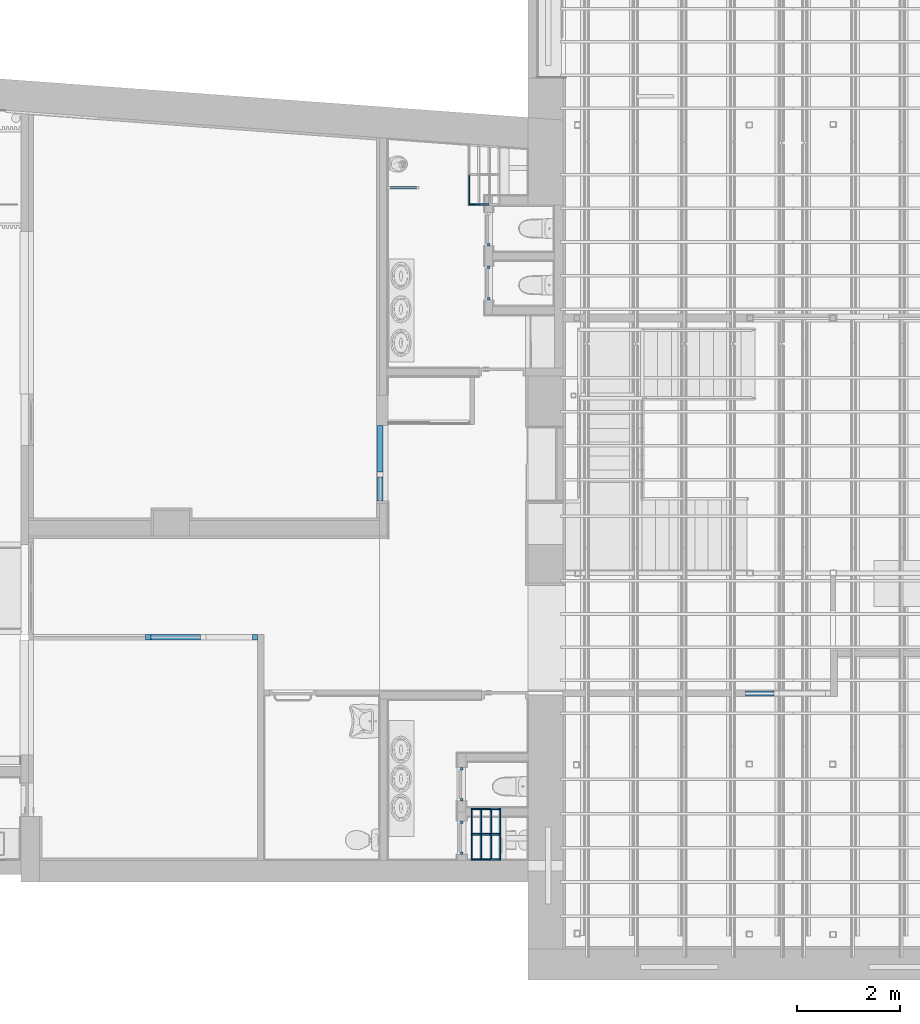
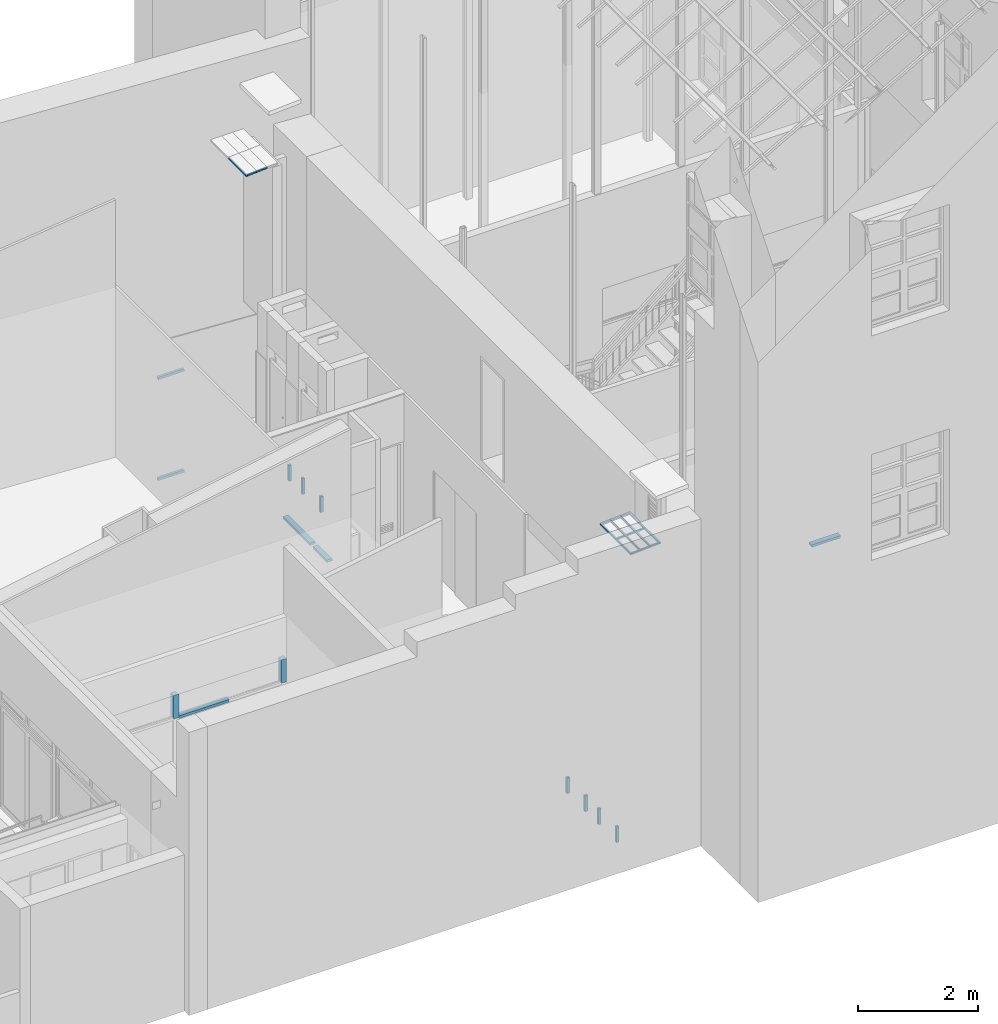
# One storey, part 28 of 75: 35 members, 10 elements without a shape of their own.
"""IFC2X3 building model written with IfcOpenShell, lengths in metres."""

from ifc_helpers import new_model, entity, si_unit, converted_unit, derived_unit, direction, frame, origin, origin_2d_with_axis, place, context, subcontext, project, spatial, rectangle, extrude, source, transform, mapped, material, type_object, type_shapes, element, aggregate, save


model = new_model("IFC2X3")

# Units and contexts
model_context = context("Model", 3, precision=1e-05, world=origin(), true_north=direction((6.12303176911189e-17, 1.0)))
body_context = subcontext(model_context, "Body", "Model", "MODEL_VIEW")
ifc_project = project(units=[si_unit("LENGTHUNIT", "METRE"), si_unit("AREAUNIT", "SQUARE_METRE"), si_unit("VOLUMEUNIT", "CUBIC_METRE"), converted_unit("PLANEANGLEUNIT", "DEGREE", entity("IfcRatioMeasure", 0.0174532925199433), si_unit("PLANEANGLEUNIT", "RADIAN"), dimensions=[0, 0, 0, 0, 0, 0, 0]), si_unit("MASSUNIT", "GRAM", prefix="KILO"), derived_unit("MASSDENSITYUNIT", [(si_unit("MASSUNIT", "GRAM", prefix="KILO"), 1), (si_unit("LENGTHUNIT", "METRE"), -3)]), derived_unit("MOMENTOFINERTIAUNIT", [(si_unit("LENGTHUNIT", "METRE"), 4)]), si_unit("TIMEUNIT", "SECOND"), si_unit("FREQUENCYUNIT", "HERTZ"), si_unit("THERMODYNAMICTEMPERATUREUNIT", "DEGREE_CELSIUS"), derived_unit("THERMALTRANSMITTANCEUNIT", [(si_unit("MASSUNIT", "GRAM", prefix="KILO"), 1), (si_unit("THERMODYNAMICTEMPERATUREUNIT", "KELVIN"), -1), (si_unit("TIMEUNIT", "SECOND"), -3)]), derived_unit("VOLUMETRICFLOWRATEUNIT", [(si_unit("LENGTHUNIT", "METRE"), 3), (si_unit("TIMEUNIT", "SECOND"), -1)]), si_unit("ELECTRICCURRENTUNIT", "AMPERE"), si_unit("ELECTRICVOLTAGEUNIT", "VOLT"), si_unit("POWERUNIT", "WATT"), si_unit("FORCEUNIT", "NEWTON", prefix="KILO"), si_unit("ILLUMINANCEUNIT", "LUX"), si_unit("LUMINOUSFLUXUNIT", "LUMEN"), si_unit("LUMINOUSINTENSITYUNIT", "CANDELA"), derived_unit("USERDEFINED", [(si_unit("MASSUNIT", "GRAM", prefix="KILO"), -1), (si_unit("LENGTHUNIT", "METRE"), -2), (si_unit("TIMEUNIT", "SECOND"), 3), (si_unit("LUMINOUSFLUXUNIT", "LUMEN"), 1)]), derived_unit("LINEARVELOCITYUNIT", [(si_unit("LENGTHUNIT", "METRE"), 1), (si_unit("TIMEUNIT", "SECOND"), -1)]), si_unit("PRESSUREUNIT", "PASCAL"), derived_unit("USERDEFINED", [(si_unit("LENGTHUNIT", "METRE"), -2), (si_unit("MASSUNIT", "GRAM", prefix="KILO"), 1), (si_unit("TIMEUNIT", "SECOND"), -2)]), derived_unit("LINEARFORCEUNIT", [(si_unit("MASSUNIT", "GRAM", prefix="KILO"), 1), (si_unit("LENGTHUNIT", "METRE"), 1), (si_unit("TIMEUNIT", "SECOND"), -2), (si_unit("LENGTHUNIT", "METRE"), -1)]), derived_unit("PLANARFORCEUNIT", [(si_unit("MASSUNIT", "GRAM", prefix="KILO"), 1), (si_unit("LENGTHUNIT", "METRE"), 1), (si_unit("TIMEUNIT", "SECOND"), -2), (si_unit("LENGTHUNIT", "METRE"), -2)])], contexts=[model_context])

# Site, building, storey
site_placement = place(None, origin())
site = spatial("IfcSite", under=ifc_project, at=site_placement, Name="Superficie", CompositionType="ELEMENT")
building_placement = place(site_placement, origin())
building = spatial("IfcBuilding", under=site, at=building_placement, Name="Telegestiones", CompositionType="ELEMENT")
storey_placement = place(building_placement, origin())
storey = spatial("IfcBuildingStorey", under=building, at=storey_placement, Name="Nivel 0_NPT", CompositionType="ELEMENT", Elevation=0.0)

# Curtain wall, members
curtain_wall_type_1 = type_object("IfcCurtainWallType", PredefinedType="NOTDEFINED")
curtain_wall_1_placement = place(storey_placement, origin())
curtain_wall_1 = element("IfcCurtainWall", 1, at=curtain_wall_1_placement, inside=storey, type_object=curtain_wall_type_1)
ifc_material = material(Name="Aluminio")
member_type_1 = type_object("IfcMemberType", Name="Montante rectangular:10x10", PredefinedType="MULLION", material=ifc_material)
shared_shape_1 = source(origin(), body_context, "Body", "SweptSolid", [
    extrude(rectangle(XDim=0.1, YDim=0.1, at=origin_2d_with_axis()), frame((-0.05, 0.0, -0.475), z_axis=(0.0, 0.0, 1.0), x_axis=(0.0, -1.0, 0.0)), (0.0, 0.0, 1.0), 0.475),
])
type_shapes(member_type_1, [shared_shape_1])
member_1_placement = place(curtain_wall_1_placement, frame((0.106652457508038, 0.24406301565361, 2.125), z_axis=(0.0, 0.0, -1.0), x_axis=(1.0, 0.0, 0.0)))
member_1 = element("IfcMember", 2, at=member_1_placement, type_object=member_type_1, Name="Montante rectangular:10x10", ObjectType="Montante rectangular:10x10", context=body_context, shape_type="MappedRepresentation", body=[
    mapped(shared_shape_1, transform((0.0, 0.0, 0.0), scale=1.0)),
])
member_type_2 = type_object("IfcMemberType", Name="Montante rectangular:5x10", PredefinedType="MULLION", material=ifc_material)
shared_shape_2 = source(origin(), body_context, "Body", "SweptSolid", [
    extrude(rectangle(XDim=0.1, YDim=0.05, at=origin_2d_with_axis()), frame((0.0, 0.0, -0.965917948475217), z_axis=(0.0, 0.0, 1.0), x_axis=(0.0, -1.0, 0.0)), (0.0, 0.0, 1.0), 0.965917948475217),
])
type_shapes(member_type_2, [shared_shape_2])
member_2_placement = place(curtain_wall_1_placement, frame((-0.998349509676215, 0.244063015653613, 2.125), z_axis=(1.0, 0.0, 0.0), x_axis=(0.0, 0.0, 1.0)))
member_2 = element("IfcMember", 3, at=member_2_placement, type_object=member_type_2, Name="Montante rectangular:5x10", ObjectType="Montante rectangular:5x10", context=body_context, shape_type="MappedRepresentation", body=[
    mapped(shared_shape_2, transform((0.0, 0.0, 0.0), scale=1.0)),
])
member_type_3 = type_object("IfcMemberType", Name="Montante rectangular:10x10", PredefinedType="MULLION", material=ifc_material)
shared_shape_3 = source(origin(), body_context, "Body", "SweptSolid", [
    extrude(rectangle(XDim=0.1, YDim=0.1, at=origin_2d_with_axis()), frame((0.05, 0.0, -0.475), z_axis=(0.0, 0.0, 1.0), x_axis=(0.0, -1.0, 0.0)), (0.0, 0.0, 1.0), 0.475),
])
type_shapes(member_type_3, [shared_shape_3])
member_3_placement = place(curtain_wall_1_placement, frame((-2.06426745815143, 0.244063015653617, 2.125), z_axis=(0.0, 0.0, -1.0), x_axis=(1.0, 0.0, 0.0)))
member_3 = element("IfcMember", 4, at=member_3_placement, type_object=member_type_3, Name="Montante rectangular:10x10", ObjectType="Montante rectangular:10x10", context=body_context, shape_type="MappedRepresentation", body=[
    mapped(shared_shape_3, transform((0.0, 0.0, 0.0), scale=1.0)),
])
aggregate(curtain_wall_1, [member_1, member_2, member_3])

curtain_wall_type_2 = type_object("IfcCurtainWallType", PredefinedType="NOTDEFINED")
curtain_wall_2_placement = place(storey_placement, origin())
curtain_wall_2 = element("IfcCurtainWall", 5, at=curtain_wall_2_placement, inside=storey, type_object=curtain_wall_type_2)
member_type_4 = type_object("IfcMemberType", Name="Montante rectangular:5x10", PredefinedType="MULLION", material=ifc_material)
shared_shape_4 = source(origin(), body_context, "Body", "SweptSolid", [
    extrude(rectangle(XDim=0.1, YDim=0.05, at=origin_2d_with_axis()), frame((0.0, 0.0, -0.466767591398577), z_axis=(0.0, 0.0, 1.0), x_axis=(0.0, -1.0, 0.0)), (0.0, 0.0, 1.0), 0.466767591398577),
])
type_shapes(member_type_4, [shared_shape_4])
member_4_placement = place(curtain_wall_2_placement, frame((2.48532576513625, 3.34860365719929, 2.125), z_axis=(0.0, 1.0, 0.0), x_axis=(0.0, 0.0, 1.0)))
member_4 = element("IfcMember", 6, at=member_4_placement, type_object=member_type_4, Name="Montante rectangular:5x10", ObjectType="Montante rectangular:5x10", context=body_context, shape_type="MappedRepresentation", body=[
    mapped(shared_shape_4, transform((0.0, 0.0, 0.0), scale=1.0)),
])
member_type_5 = type_object("IfcMemberType", Name="Montante rectangular:5x10", PredefinedType="MULLION", material=ifc_material)
shared_shape_5 = source(origin(), body_context, "Body", "SweptSolid", [
    extrude(rectangle(XDim=0.1, YDim=0.05, at=origin_2d_with_axis()), frame((0.0, 0.0, -0.9), z_axis=(0.0, 0.0, 1.0), x_axis=(0.0, -1.0, 0.0)), (0.0, 0.0, 1.0), 0.9),
])
type_shapes(member_type_5, [shared_shape_5])
member_5_placement = place(curtain_wall_2_placement, frame((2.48532576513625, 4.34860365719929, 2.125), z_axis=(0.0, 1.0, 0.0), x_axis=(0.0, 0.0, 1.0)))
member_5 = element("IfcMember", 7, at=member_5_placement, type_object=member_type_5, Name="Montante rectangular:5x10", ObjectType="Montante rectangular:5x10", context=body_context, shape_type="MappedRepresentation", body=[
    mapped(shared_shape_5, transform((0.0, 0.0, 0.0), scale=1.0)),
])
aggregate(curtain_wall_2, [member_4, member_5])

# Curtain wall, member
curtain_wall_type_3 = type_object("IfcCurtainWallType", PredefinedType="NOTDEFINED")
curtain_wall_3_placement = place(storey_placement, origin())
curtain_wall_3 = element("IfcCurtainWall", 8, at=curtain_wall_3_placement, inside=storey, type_object=curtain_wall_type_3)
member_type_6 = type_object("IfcMemberType", Name="Montante rectangular:5x10", PredefinedType="MULLION", material=ifc_material)
shared_shape_6 = source(origin(), body_context, "Body", "SweptSolid", [
    extrude(rectangle(XDim=0.1, YDim=0.05, at=origin_2d_with_axis()), frame((0.0, 0.0, -0.55), z_axis=(0.0, 0.0, 1.0), x_axis=(0.0, -1.0, 0.0)), (0.0, 0.0, 1.0), 0.549999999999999),
])
type_shapes(member_type_6, [shared_shape_6])
member_6_placement = place(curtain_wall_3_placement, frame((9.5738493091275, -0.846462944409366, 2.225), z_axis=(-1.0, 0.0, 0.0), x_axis=(0.0, 0.0, 1.0)))
member_6 = element("IfcMember", 9, at=member_6_placement, type_object=member_type_6, Name="Montante rectangular:5x10", ObjectType="Montante rectangular:5x10", context=body_context, shape_type="MappedRepresentation", body=[
    mapped(shared_shape_6, transform((0.0, 0.0, 0.0), scale=1.0)),
])
aggregate(curtain_wall_3, [member_6])

# Roof, members
curtain_wall_type_4 = type_object("IfcCurtainWallType", Name="Cristalera inclinada:ARQ-CA-EX-Lucernario", PredefinedType="NOTDEFINED")
roof_1_placement = place(storey_placement, origin())
roof_1 = element("IfcRoof", 10, at=roof_1_placement, inside=storey, type_object=curtain_wall_type_4, Name="Cristalera inclinada:ARQ-CA-EX-Lucernario", ObjectType="Cristalera inclinada:ARQ-CA-EX-Lucernario", ShapeType="NOTDEFINED")
member_type_7 = type_object("IfcMemberType", Name="Montante rectangular:3x3", PredefinedType="MULLION", material=ifc_material)
shared_shape_7 = source(origin(), body_context, "Body", "SweptSolid", [
    extrude(rectangle(XDim=0.03, YDim=0.03, at=origin_2d_with_axis()), frame((-0.015, 0.0, -0.592242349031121), z_axis=(0.0, 0.0, 1.0), x_axis=(0.0, -1.0, 0.0)), (0.0, 0.0, 1.0), 0.592242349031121),
])
type_shapes(member_type_7, [shared_shape_7])
member_7_placement = place(roof_1_placement, frame((4.19481262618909, 8.62360722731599, 5.85343137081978), z_axis=(0.0, -1.0, 0.0), x_axis=(-0.998204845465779, 0.0, -0.0598922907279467)))
member_7 = element("IfcMember", 11, at=member_7_placement, type_object=member_type_7, Name="Montante rectangular:3x3", ObjectType="Montante rectangular:3x3", context=body_context, shape_type="MappedRepresentation", body=[
    mapped(shared_shape_7, transform((0.0, 0.0, 0.0), scale=1.0)),
])
member_type_8 = type_object("IfcMemberType", Name="Montante rectangular:3x3", PredefinedType="MULLION", material=ifc_material)
shared_shape_8 = source(origin(), body_context, "Body", "SweptSolid", [
    extrude(rectangle(XDim=0.03, YDim=0.03, at=origin_2d_with_axis()), frame((-0.015, 0.0, -0.203524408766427), z_axis=(0.0, 0.0, 1.0), x_axis=(0.0, -1.0, 0.0)), (0.0, 0.0, 1.0), 0.203524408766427),
])
type_shapes(member_type_8, [shared_shape_8])
member_8_placement = place(roof_1_placement, frame((4.6011307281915, 8.62360722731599, 5.87781045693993), z_axis=(0.998204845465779, 0.0, 0.0598922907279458), x_axis=(0.0, -1.0, 0.0)))
member_8 = element("IfcMember", 12, at=member_8_placement, type_object=member_type_8, Name="Montante rectangular:3x3", ObjectType="Montante rectangular:3x3", context=body_context, shape_type="MappedRepresentation", body=[
    mapped(shared_shape_8, transform((0.0, 0.0, 0.0), scale=1.0)),
])
member_type_9 = type_object("IfcMemberType", Name="Montante rectangular:3x3", PredefinedType="MULLION", material=ifc_material)
shared_shape_9 = source(origin(), body_context, "Body", "SweptSolid", [
    extrude(rectangle(XDim=0.03, YDim=0.03, at=origin_2d_with_axis()), frame((-0.015, 0.0, -0.173524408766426), z_axis=(0.0, 0.0, 1.0), x_axis=(0.0, -1.0, 0.0)), (0.0, 0.0, 1.0), 0.173524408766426),
])
type_shapes(member_type_9, [shared_shape_9])
member_9_placement = place(roof_1_placement, frame((4.3979716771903, 8.62360722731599, 5.86562091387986), z_axis=(0.998204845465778, 0.0, 0.0598922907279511), x_axis=(0.0, -1.0, 0.0)))
member_9 = element("IfcMember", 13, at=member_9_placement, type_object=member_type_9, Name="Montante rectangular:3x3", ObjectType="Montante rectangular:3x3", context=body_context, shape_type="MappedRepresentation", body=[
    mapped(shared_shape_9, transform((0.0, 0.0, 0.0), scale=1.0)),
])
aggregate(roof_1, [member_7, member_8, member_9])

# Curtain wall, member
curtain_wall_type_5 = type_object("IfcCurtainWallType", PredefinedType="NOTDEFINED")
curtain_wall_4_placement = place(storey_placement, origin())
curtain_wall_4 = element("IfcCurtainWall", 14, at=curtain_wall_4_placement, inside=storey, type_object=curtain_wall_type_5)
member_type_10 = type_object("IfcMemberType", Name="Montante rectangular:5x5", PredefinedType="MULLION", material=ifc_material)
shared_shape_10 = source(origin(), body_context, "Body", "SweptSolid", [
    extrude(rectangle(XDim=0.05, YDim=0.05, at=origin_2d_with_axis()), frame((-0.025, 0.0, -0.32), z_axis=(0.0, 0.0, 1.0), x_axis=(0.0, -1.0, 0.0)), (0.0, 0.0, 1.0), 0.32),
])
type_shapes(member_type_10, [shared_shape_10])
member_10_placement = place(curtain_wall_4_placement, frame((4.06481262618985, -2.28139277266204, 0.0), z_axis=(0.0, 0.0, -1.0), x_axis=(0.0, 1.0, 0.0)))
member_10 = element("IfcMember", 15, at=member_10_placement, type_object=member_type_10, Name="Montante rectangular:5x5", ObjectType="Montante rectangular:5x5", context=body_context, shape_type="MappedRepresentation", body=[
    mapped(shared_shape_10, transform((0.0, 0.0, 0.0), scale=1.0)),
])

curtain_wall_5_placement = place(storey_placement, origin())
curtain_wall_5 = element("IfcCurtainWall", 16, at=curtain_wall_5_placement, inside=storey, type_object=curtain_wall_type_5)
member_11_placement = place(curtain_wall_5_placement, frame((4.06481262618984, -3.32139277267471, 0.0), z_axis=(0.0, 0.0, -1.0), x_axis=(0.0, 1.0, 0.0)))
member_11 = element("IfcMember", 17, at=member_11_placement, type_object=member_type_10, Name="Montante rectangular:5x5", ObjectType="Montante rectangular:5x5", context=body_context, shape_type="MappedRepresentation", body=[
    mapped(shared_shape_10, transform((0.0, 0.0, 0.0), scale=1.0)),
])

curtain_wall_6_placement = place(storey_placement, origin())
curtain_wall_6 = element("IfcCurtainWall", 18, at=curtain_wall_6_placement, inside=storey, type_object=curtain_wall_type_5)
member_12_placement = place(curtain_wall_6_placement, frame((4.58995224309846, 7.44324357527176, 0.0), z_axis=(0.0, 0.0, -1.0), x_axis=(0.0, 1.0, 0.0)))
member_12 = element("IfcMember", 19, at=member_12_placement, type_object=member_type_10, Name="Montante rectangular:5x5", ObjectType="Montante rectangular:5x5", context=body_context, shape_type="MappedRepresentation", body=[
    mapped(shared_shape_10, transform((0.0, 0.0, 0.0), scale=1.0)),
])

# Member
member_type_11 = type_object("IfcMemberType", Name="Montante rectangular:5x5", PredefinedType="MULLION", material=ifc_material)
shared_shape_11 = source(origin(), body_context, "Body", "SweptSolid", [
    extrude(rectangle(XDim=0.05, YDim=0.05, at=origin_2d_with_axis()), frame((-0.025, 0.0, -0.32), z_axis=(0.0, 0.0, 1.0), x_axis=(0.0, -1.0, 0.0)), (0.0, 0.0, 1.0), 0.32),
])
type_shapes(member_type_11, [shared_shape_11])
member_13_placement = place(curtain_wall_4_placement, frame((4.06481262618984, -2.93139277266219, 0.32), z_axis=(0.0, 0.0, 1.0), x_axis=(0.0, -1.0, 0.0)))
member_13 = element("IfcMember", 20, at=member_13_placement, type_object=member_type_11, Name="Montante rectangular:5x5", ObjectType="Montante rectangular:5x5", context=body_context, shape_type="MappedRepresentation", body=[
    mapped(shared_shape_11, transform((0.0, 0.0, 0.0), scale=1.0)),
])

aggregate(curtain_wall_4, [member_10, member_13])

member_14_placement = place(curtain_wall_5_placement, frame((4.06481262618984, -3.97136539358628, 0.32), z_axis=(0.0, 0.0, 1.0), x_axis=(0.0, -1.0, 0.0)))
member_14 = element("IfcMember", 21, at=member_14_placement, type_object=member_type_11, Name="Montante rectangular:5x5", ObjectType="Montante rectangular:5x5", context=body_context, shape_type="MappedRepresentation", body=[
    mapped(shared_shape_11, transform((0.0, 0.0, 0.0), scale=1.0)),
])

aggregate(curtain_wall_5, [member_11, member_14])

member_15_placement = place(curtain_wall_6_placement, frame((4.58995224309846, 6.78360722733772, 0.32), z_axis=(0.0, 0.0, 1.0), x_axis=(0.0, -1.0, 0.0)))
member_15 = element("IfcMember", 22, at=member_15_placement, type_object=member_type_11, Name="Montante rectangular:5x5", ObjectType="Montante rectangular:5x5", context=body_context, shape_type="MappedRepresentation", body=[
    mapped(shared_shape_11, transform((0.0, 0.0, 0.0), scale=1.0)),
])

aggregate(curtain_wall_6, [member_12, member_15])

# Curtain wall, member
curtain_wall_7_placement = place(storey_placement, origin())
curtain_wall_7 = element("IfcCurtainWall", 23, at=curtain_wall_7_placement, inside=storey, type_object=curtain_wall_type_5)
member_16_placement = place(curtain_wall_7_placement, frame((4.58981262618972, 7.83360722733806, 0.32), z_axis=(0.0, 0.0, 1.0), x_axis=(0.0, -1.0, 0.0)))
member_16 = element("IfcMember", 24, at=member_16_placement, type_object=member_type_11, Name="Montante rectangular:5x5", ObjectType="Montante rectangular:5x5", context=body_context, shape_type="MappedRepresentation", body=[
    mapped(shared_shape_11, transform((0.0, 0.0, 0.0), scale=1.0)),
])
aggregate(curtain_wall_7, [member_16])

# Curtain wall, members
curtain_wall_8_placement = place(storey_placement, origin())
curtain_wall_8 = element("IfcCurtainWall", 25, at=curtain_wall_8_placement, inside=storey, type_object=curtain_wall_type_5)
member_type_12 = type_object("IfcMemberType", Name="Montante rectangular:5x5", PredefinedType="MULLION", material=ifc_material)
shared_shape_12 = source(origin(), body_context, "Body", "SweptSolid", [
    extrude(rectangle(XDim=0.05, YDim=0.05, at=origin_2d_with_axis()), frame((-0.025, 0.0, -0.499999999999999), z_axis=(0.0, 0.0, 1.0), x_axis=(0.0, -1.0, 0.0)), (0.0, 0.0, 1.0), 0.499999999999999),
])
type_shapes(member_type_12, [shared_shape_12])
member_17_placement = place(curtain_wall_8_placement, frame((3.18740672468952, 8.96204870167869, 2.1), z_axis=(1.0, 0.0, 0.0), x_axis=(0.0, 0.0, 1.0)))
member_17 = element("IfcMember", 26, at=member_17_placement, type_object=member_type_12, Name="Montante rectangular:5x5", ObjectType="Montante rectangular:5x5", context=body_context, shape_type="MappedRepresentation", body=[
    mapped(shared_shape_12, transform((0.0, 0.0, 0.0), scale=1.0)),
])
member_type_13 = type_object("IfcMemberType", Name="Montante rectangular:5x5", PredefinedType="MULLION", material=ifc_material)
shared_shape_13 = source(origin(), body_context, "Body", "SweptSolid", [
    extrude(rectangle(XDim=0.05, YDim=0.05, at=origin_2d_with_axis()), frame((-0.025, 0.0, -0.5), z_axis=(0.0, 0.0, 1.0), x_axis=(0.0, -1.0, 0.0)), (0.0, 0.0, 1.0), 0.5),
])
type_shapes(member_type_13, [shared_shape_13])
member_18_placement = place(curtain_wall_8_placement, frame((2.68740672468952, 8.96204870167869, 0.0), z_axis=(-1.0, 0.0, 0.0), x_axis=(0.0, 0.0, -1.0)))
member_18 = element("IfcMember", 27, at=member_18_placement, type_object=member_type_13, Name="Montante rectangular:5x5", ObjectType="Montante rectangular:5x5", context=body_context, shape_type="MappedRepresentation", body=[
    mapped(shared_shape_13, transform((0.0, 0.0, 0.0), scale=1.0)),
])
aggregate(curtain_wall_8, [member_17, member_18])

# Roof, members
roof_2_placement = place(storey_placement, origin())
roof_2 = element("IfcRoof", 28, at=roof_2_placement, inside=storey, type_object=curtain_wall_type_4, Name="Cristalera inclinada:ARQ-CA-EX-Lucernario", ObjectType="Cristalera inclinada:ARQ-CA-EX-Lucernario", ShapeType="NOTDEFINED")
member_type_14 = type_object("IfcMemberType", Name="Montante rectangular:3x3", PredefinedType="MULLION", material=ifc_material)
shared_shape_14 = source(origin(), body_context, "Body", "SweptSolid", [
    extrude(rectangle(XDim=0.03, YDim=0.03, at=origin_2d_with_axis()), frame((-0.015, 0.0, -0.507049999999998), z_axis=(0.0, 0.0, 1.0), x_axis=(0.0, -1.0, 0.0)), (0.0, 0.0, 1.0), 0.507049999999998),
])
type_shapes(member_type_14, [shared_shape_14])
member_19_placement = place(roof_2_placement, frame((4.82428977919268, -3.072292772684, 5.89), z_axis=(0.0, 1.0, 0.0), x_axis=(0.998204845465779, 0.0, 0.0598922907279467)))
member_19 = element("IfcMember", 29, at=member_19_placement, type_object=member_type_14, Name="Montante rectangular:3x3", ObjectType="Montante rectangular:3x3", context=body_context, shape_type="MappedRepresentation", body=[
    mapped(shared_shape_14, transform((0.0, 0.0, 0.0), scale=1.0)),
])
member_type_15 = type_object("IfcMemberType", Name="Montante rectangular:3x3", PredefinedType="MULLION", material=ifc_material)
shared_shape_15 = source(origin(), body_context, "Body", "SweptSolid", [
    extrude(rectangle(XDim=0.03, YDim=0.03, at=origin_2d_with_axis()), frame((-0.015, 0.0, -0.50705), z_axis=(0.0, 0.0, 1.0), x_axis=(0.0, -1.0, 0.0)), (0.0, 0.0, 1.0), 0.50705),
])
type_shapes(member_type_15, [shared_shape_15])
member_20_placement = place(roof_2_placement, frame((4.24481262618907, -4.086392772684, 5.85523137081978), z_axis=(0.0, -1.0, 0.0), x_axis=(-0.998204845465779, 0.0, -0.0598922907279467)))
member_20 = element("IfcMember", 30, at=member_20_placement, type_object=member_type_15, Name="Montante rectangular:3x3", ObjectType="Montante rectangular:3x3", context=body_context, shape_type="MappedRepresentation", body=[
    mapped(shared_shape_15, transform((0.0, 0.0, 0.0), scale=1.0)),
])
member_type_16 = type_object("IfcMemberType", Name="Montante rectangular:3x3", PredefinedType="MULLION", material=ifc_material)
shared_shape_16 = source(origin(), body_context, "Body", "SweptSolid", [
    extrude(rectangle(XDim=0.03, YDim=0.03, at=origin_2d_with_axis()), frame((-0.015, 0.0, -0.163506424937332), z_axis=(0.0, 0.0, 1.0), x_axis=(0.0, -1.0, 0.0)), (0.0, 0.0, 1.0), 0.163506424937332),
])
type_shapes(member_type_16, [shared_shape_16])
member_21_placement = place(roof_2_placement, frame((4.79434363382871, -4.086392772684, 5.88820323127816), z_axis=(0.998204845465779, 0.0, 0.0598922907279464), x_axis=(0.0, -1.0, 0.0)))
member_21 = element("IfcMember", 31, at=member_21_placement, type_object=member_type_16, Name="Montante rectangular:3x3", ObjectType="Montante rectangular:3x3", context=body_context, shape_type="MappedRepresentation", body=[
    mapped(shared_shape_16, transform((0.0, 0.0, 0.0), scale=1.0)),
])
member_type_17 = type_object("IfcMemberType", Name="Montante rectangular:3x3", PredefinedType="MULLION", material=ifc_material)
shared_shape_17 = source(origin(), body_context, "Body", "SweptSolid", [
    extrude(rectangle(XDim=0.03, YDim=0.03, at=origin_2d_with_axis()), frame((-0.015, 0.0, -0.163506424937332), z_axis=(0.0, 0.0, 1.0), x_axis=(0.0, -1.0, 0.0)), (0.0, 0.0, 1.0), 0.163506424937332),
])
type_shapes(member_type_17, [shared_shape_17])
member_22_placement = place(roof_2_placement, frame((4.27475877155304, -3.072292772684, 5.85702813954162), z_axis=(-0.998204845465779, 0.0, -0.0598922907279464), x_axis=(0.0, 1.0, 0.0)))
member_22 = element("IfcMember", 32, at=member_22_placement, type_object=member_type_17, Name="Montante rectangular:3x3", ObjectType="Montante rectangular:3x3", context=body_context, shape_type="MappedRepresentation", body=[
    mapped(shared_shape_17, transform((0.0, 0.0, 0.0), scale=1.0)),
])
member_type_18 = type_object("IfcMemberType", Name="Montante rectangular:3x3", PredefinedType="MULLION", material=ifc_material)
shared_shape_18 = source(origin(), body_context, "Body", "SweptSolid", [
    extrude(rectangle(XDim=0.03, YDim=0.03, at=origin_2d_with_axis()), frame((-0.015, 0.0, -0.193506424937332), z_axis=(0.0, 0.0, 1.0), x_axis=(0.0, -1.0, 0.0)), (0.0, 0.0, 1.0), 0.193506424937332),
])
type_shapes(member_type_18, [shared_shape_18])
member_23_placement = place(roof_2_placement, frame((4.63113072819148, -4.086392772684, 5.87841045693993), z_axis=(0.998204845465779, 0.0, 0.0598922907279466), x_axis=(0.0, -1.0, 0.0)))
member_23 = element("IfcMember", 33, at=member_23_placement, type_object=member_type_18, Name="Montante rectangular:3x3", ObjectType="Montante rectangular:3x3", context=body_context, shape_type="MappedRepresentation", body=[
    mapped(shared_shape_18, transform((0.0, 0.0, 0.0), scale=1.0)),
])
member_type_19 = type_object("IfcMemberType", Name="Montante rectangular:3x3", PredefinedType="MULLION", material=ifc_material)
shared_shape_19 = source(origin(), body_context, "Body", "SweptSolid", [
    extrude(rectangle(XDim=0.03, YDim=0.03, at=origin_2d_with_axis()), frame((-0.015, 0.0, -0.193506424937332), z_axis=(0.0, 0.0, 1.0), x_axis=(0.0, -1.0, 0.0)), (0.0, 0.0, 1.0), 0.193506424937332),
])
type_shapes(member_type_19, [shared_shape_19])
member_24_placement = place(roof_2_placement, frame((4.43797167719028, -3.072292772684, 5.86682091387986), z_axis=(-0.998204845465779, 0.0, -0.0598922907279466), x_axis=(0.0, 1.0, 0.0)))
member_24 = element("IfcMember", 34, at=member_24_placement, type_object=member_type_19, Name="Montante rectangular:3x3", ObjectType="Montante rectangular:3x3", context=body_context, shape_type="MappedRepresentation", body=[
    mapped(shared_shape_19, transform((0.0, 0.0, 0.0), scale=1.0)),
])
member_type_20 = type_object("IfcMemberType", Name="Montante rectangular:3x3", PredefinedType="MULLION", material=ifc_material)
shared_shape_20 = source(origin(), body_context, "Body", "SweptSolid", [
    extrude(rectangle(XDim=0.03, YDim=0.03, at=origin_2d_with_axis()), frame((-0.015, 0.0, -0.163506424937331), z_axis=(0.0, 0.0, 1.0), x_axis=(0.0, -1.0, 0.0)), (0.0, 0.0, 1.0), 0.163506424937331),
])
type_shapes(member_type_20, [shared_shape_20])
member_25_placement = place(roof_2_placement, frame((4.43797167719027, -4.086392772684, 5.86682091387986), z_axis=(0.998204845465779, 0.0, 0.0598922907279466), x_axis=(0.0, -1.0, 0.0)))
member_25 = element("IfcMember", 35, at=member_25_placement, type_object=member_type_20, Name="Montante rectangular:3x3", ObjectType="Montante rectangular:3x3", context=body_context, shape_type="MappedRepresentation", body=[
    mapped(shared_shape_20, transform((0.0, 0.0, 0.0), scale=1.0)),
])
member_type_21 = type_object("IfcMemberType", Name="Montante rectangular:3x3", PredefinedType="MULLION", material=ifc_material)
shared_shape_21 = source(origin(), body_context, "Body", "SweptSolid", [
    extrude(rectangle(XDim=0.03, YDim=0.03, at=origin_2d_with_axis()), frame((0.0, 0.0, -0.477049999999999), z_axis=(0.0, 0.0, 1.0), x_axis=(0.0, -1.0, 0.0)), (0.0, 0.0, 1.0), 0.477049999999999),
])
type_shapes(member_type_21, [shared_shape_21])
member_26_placement = place(roof_2_placement, frame((4.63113072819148, -4.056392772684, 5.87841045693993), z_axis=(0.0, -1.0, 0.0), x_axis=(-0.998204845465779, 0.0, -0.0598922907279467)))
member_26 = element("IfcMember", 36, at=member_26_placement, type_object=member_type_21, Name="Montante rectangular:3x3", ObjectType="Montante rectangular:3x3", context=body_context, shape_type="MappedRepresentation", body=[
    mapped(shared_shape_21, transform((0.0, 0.0, 0.0), scale=1.0)),
])
member_27_placement = place(roof_2_placement, frame((4.43797167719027, -4.056392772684, 5.86682091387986), z_axis=(0.0, -1.0, 0.0), x_axis=(-0.998204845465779, 0.0, -0.0598922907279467)))
member_27 = element("IfcMember", 37, at=member_27_placement, type_object=member_type_21, Name="Montante rectangular:3x3", ObjectType="Montante rectangular:3x3", context=body_context, shape_type="MappedRepresentation", body=[
    mapped(shared_shape_21, transform((0.0, 0.0, 0.0), scale=1.0)),
])
member_type_22 = type_object("IfcMemberType", Name="Montante rectangular:3x3", PredefinedType="MULLION", material=ifc_material)
shared_shape_22 = source(origin(), body_context, "Body", "SweptSolid", [
    extrude(rectangle(XDim=0.03, YDim=0.03, at=origin_2d_with_axis()), frame((-0.015, 0.0, -0.163506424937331), z_axis=(0.0, 0.0, 1.0), x_axis=(0.0, -1.0, 0.0)), (0.0, 0.0, 1.0), 0.163506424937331),
])
type_shapes(member_type_22, [shared_shape_22])
member_28_placement = place(roof_2_placement, frame((4.63113072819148, -3.072292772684, 5.87841045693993), z_axis=(-0.998204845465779, 0.0, -0.0598922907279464), x_axis=(0.0, 1.0, 0.0)))
member_28 = element("IfcMember", 38, at=member_28_placement, type_object=member_type_22, Name="Montante rectangular:3x3", ObjectType="Montante rectangular:3x3", context=body_context, shape_type="MappedRepresentation", body=[
    mapped(shared_shape_22, transform((0.0, 0.0, 0.0), scale=1.0)),
])
member_type_23 = type_object("IfcMemberType", Name="Montante rectangular:3x3", PredefinedType="MULLION", material=ifc_material)
shared_shape_23 = source(origin(), body_context, "Body", "SweptSolid", [
    extrude(rectangle(XDim=0.03, YDim=0.03, at=origin_2d_with_axis()), frame((-0.015, 0.0, -0.50705), z_axis=(0.0, 0.0, 1.0), x_axis=(0.0, -1.0, 0.0)), (0.0, 0.0, 1.0), 0.50705),
])
type_shapes(member_type_23, [shared_shape_23])
member_29_placement = place(roof_2_placement, frame((4.24481262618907, -3.579342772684, 5.85523137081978), z_axis=(0.0, -1.0, 0.0), x_axis=(-0.998204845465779, 0.0, -0.0598922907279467)))
member_29 = element("IfcMember", 39, at=member_29_placement, type_object=member_type_23, Name="Montante rectangular:3x3", ObjectType="Montante rectangular:3x3", context=body_context, shape_type="MappedRepresentation", body=[
    mapped(shared_shape_23, transform((0.0, 0.0, 0.0), scale=1.0)),
])
member_type_24 = type_object("IfcMemberType", Name="Montante rectangular:3x3", PredefinedType="MULLION", material=ifc_material)
shared_shape_24 = source(origin(), body_context, "Body", "SweptSolid", [
    extrude(rectangle(XDim=0.03, YDim=0.03, at=origin_2d_with_axis()), frame((-0.015, 0.0, -0.507049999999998), z_axis=(0.0, 0.0, 1.0), x_axis=(0.0, -1.0, 0.0)), (0.0, 0.0, 1.0), 0.507049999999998),
])
type_shapes(member_type_24, [shared_shape_24])
member_30_placement = place(roof_2_placement, frame((4.82428977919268, -3.579342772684, 5.89), z_axis=(0.0, 1.0, 0.0), x_axis=(0.998204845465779, 0.0, 0.0598922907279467)))
member_30 = element("IfcMember", 40, at=member_30_placement, type_object=member_type_24, Name="Montante rectangular:3x3", ObjectType="Montante rectangular:3x3", context=body_context, shape_type="MappedRepresentation", body=[
    mapped(shared_shape_24, transform((0.0, 0.0, 0.0), scale=1.0)),
])
member_type_25 = type_object("IfcMemberType", Name="Montante rectangular:3x3", PredefinedType="MULLION", material=ifc_material)
shared_shape_25 = source(origin(), body_context, "Body", "SweptSolid", [
    extrude(rectangle(XDim=0.03, YDim=0.03, at=origin_2d_with_axis()), frame((0.0, 0.0, -0.477049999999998), z_axis=(0.0, 0.0, 1.0), x_axis=(0.0, -1.0, 0.0)), (0.0, 0.0, 1.0), 0.477049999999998),
])
type_shapes(member_type_25, [shared_shape_25])
member_31_placement = place(roof_2_placement, frame((4.63113072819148, -3.579342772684, 5.87841045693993), z_axis=(0.0, -1.0, 0.0), x_axis=(-0.998204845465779, 0.0, -0.0598922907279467)))
member_31 = element("IfcMember", 41, at=member_31_placement, type_object=member_type_25, Name="Montante rectangular:3x3", ObjectType="Montante rectangular:3x3", context=body_context, shape_type="MappedRepresentation", body=[
    mapped(shared_shape_25, transform((0.0, 0.0, 0.0), scale=1.0)),
])
member_32_placement = place(roof_2_placement, frame((4.43797167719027, -3.579342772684, 5.86682091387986), z_axis=(0.0, -1.0, 0.0), x_axis=(-0.998204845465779, 0.0, -0.0598922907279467)))
member_32 = element("IfcMember", 42, at=member_32_placement, type_object=member_type_25, Name="Montante rectangular:3x3", ObjectType="Montante rectangular:3x3", context=body_context, shape_type="MappedRepresentation", body=[
    mapped(shared_shape_25, transform((0.0, 0.0, 0.0), scale=1.0)),
])
member_type_26 = type_object("IfcMemberType", Name="Montante rectangular:3x3", PredefinedType="MULLION", material=ifc_material)
shared_shape_26 = source(origin(), body_context, "Body", "SweptSolid", [
    extrude(rectangle(XDim=0.03, YDim=0.03, at=origin_2d_with_axis()), frame((0.0, 0.0, -0.148506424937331), z_axis=(0.0, 0.0, 1.0), x_axis=(0.0, -1.0, 0.0)), (0.0, 0.0, 1.0), 0.148506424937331),
])
type_shapes(member_type_26, [shared_shape_26])
member_33_placement = place(roof_2_placement, frame((4.27475877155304, -3.579342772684, 5.85702813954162), z_axis=(-0.998204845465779, 0.0, -0.0598922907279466), x_axis=(0.0, 1.0, 0.0)))
member_33 = element("IfcMember", 43, at=member_33_placement, type_object=member_type_26, Name="Montante rectangular:3x3", ObjectType="Montante rectangular:3x3", context=body_context, shape_type="MappedRepresentation", body=[
    mapped(shared_shape_26, transform((0.0, 0.0, 0.0), scale=1.0)),
])
member_34_placement = place(roof_2_placement, frame((4.64610380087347, -3.579342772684, 5.87930884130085), z_axis=(-0.998204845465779, 0.0, -0.0598922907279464), x_axis=(0.0, 1.0, 0.0)))
member_34 = element("IfcMember", 44, at=member_34_placement, type_object=member_type_26, Name="Montante rectangular:3x3", ObjectType="Montante rectangular:3x3", context=body_context, shape_type="MappedRepresentation", body=[
    mapped(shared_shape_26, transform((0.0, 0.0, 0.0), scale=1.0)),
])
member_type_27 = type_object("IfcMemberType", Name="Montante rectangular:3x3", PredefinedType="MULLION", material=ifc_material)
shared_shape_27 = source(origin(), body_context, "Body", "SweptSolid", [
    extrude(rectangle(XDim=0.03, YDim=0.03, at=origin_2d_with_axis()), frame((0.0, 0.0, -0.163506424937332), z_axis=(0.0, 0.0, 1.0), x_axis=(0.0, -1.0, 0.0)), (0.0, 0.0, 1.0), 0.163506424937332),
])
type_shapes(member_type_27, [shared_shape_27])
member_35_placement = place(roof_2_placement, frame((4.45294474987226, -3.579342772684, 5.86771929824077), z_axis=(-0.998204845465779, 0.0, -0.0598922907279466), x_axis=(0.0, 1.0, 0.0)))
member_35 = element("IfcMember", 45, at=member_35_placement, type_object=member_type_27, Name="Montante rectangular:3x3", ObjectType="Montante rectangular:3x3", context=body_context, shape_type="MappedRepresentation", body=[
    mapped(shared_shape_27, transform((0.0, 0.0, 0.0), scale=1.0)),
])
aggregate(roof_2, [member_19, member_20, member_21, member_22, member_23, member_24, member_25, member_26, member_27, member_28, member_29, member_30, member_31, member_32, member_33, member_34, member_35])

save(model, "model.ifc")
